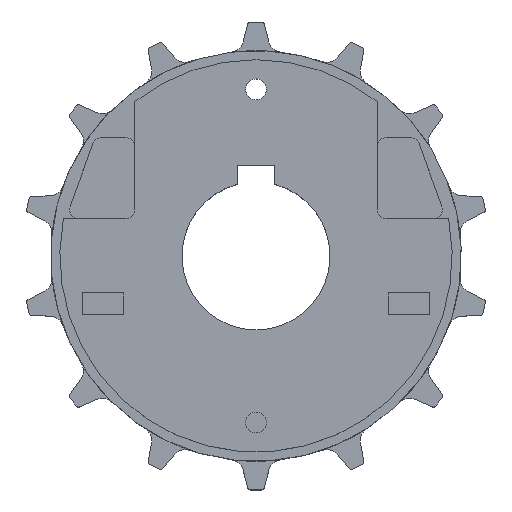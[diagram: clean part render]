
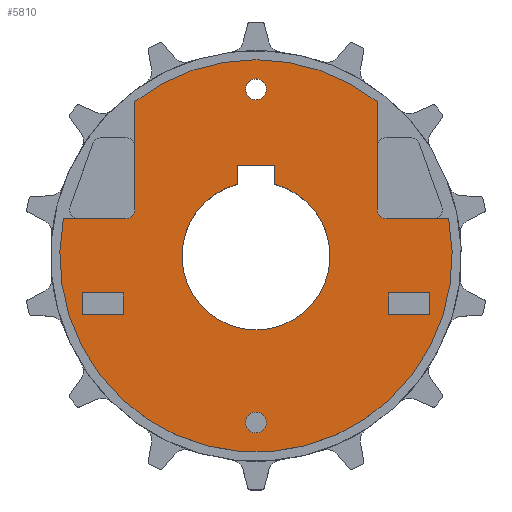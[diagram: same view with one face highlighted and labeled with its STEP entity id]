
A CAD part, top view. The second image highlights one B-rep face of the part: STEP entity #5810.
In plain terms, the highlighted planar face has unit normal (0, 0, 1).
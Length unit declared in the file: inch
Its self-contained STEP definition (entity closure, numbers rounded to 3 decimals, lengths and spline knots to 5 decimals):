
#1873=DIRECTION('',(-1.,0.,0.));
#1874=VECTOR('',#1873,0.8424);
#1875=CARTESIAN_POINT('',(-1.76,0.5,0.74));
#1876=LINE('',#1875,#1874);
#1877=CARTESIAN_POINT('',(-1.76,0.625,0.74));
#1878=DIRECTION('',(0.,0.,-1.));
#1879=DIRECTION('',(1.,0.,0.));
#1880=AXIS2_PLACEMENT_3D('',#1877,#1878,#1879);
#1882=DIRECTION('',(0.,-1.,0.));
#1883=VECTOR('',#1882,1.46049);
#1884=CARTESIAN_POINT('',(-1.635,2.08549,0.74));
#1885=LINE('',#1884,#1883);
#1886=CARTESIAN_POINT('',(0.,0.,0.74));
#1887=DIRECTION('',(0.,0.,1.));
#1888=DIRECTION('',(0.617,0.787,0.));
#1889=AXIS2_PLACEMENT_3D('',#1886,#1887,#1888);
#1891=DIRECTION('',(0.,1.,0.));
#1892=VECTOR('',#1891,1.46049);
#1893=CARTESIAN_POINT('',(1.635,0.625,0.74));
#1894=LINE('',#1893,#1892);
#1895=CARTESIAN_POINT('',(1.76,0.625,0.74));
#1896=DIRECTION('',(0.,0.,-1.));
#1897=DIRECTION('',(0.,-1.,0.));
#1898=AXIS2_PLACEMENT_3D('',#1895,#1896,#1897);
#1900=DIRECTION('',(-1.,0.,0.));
#1901=VECTOR('',#1900,0.8424);
#1902=CARTESIAN_POINT('',(2.6024,0.5,0.74));
#1903=LINE('',#1902,#1901);
#1904=CARTESIAN_POINT('',(0.,0.,0.74));
#1905=DIRECTION('',(0.,0.,1.));
#1906=DIRECTION('',(-0.982,0.189,0.));
#1907=AXIS2_PLACEMENT_3D('',#1904,#1905,#1906);
#1909=DIRECTION('',(1.,0.,0.));
#1910=VECTOR('',#1909,0.554);
#1911=CARTESIAN_POINT('',(1.792,-0.794,0.74));
#1912=LINE('',#1911,#1910);
#1913=DIRECTION('',(0.,1.,0.));
#1914=VECTOR('',#1913,0.294);
#1915=CARTESIAN_POINT('',(2.346,-0.794,0.74));
#1916=LINE('',#1915,#1914);
#1917=DIRECTION('',(-1.,0.,0.));
#1918=VECTOR('',#1917,0.554);
#1919=CARTESIAN_POINT('',(2.346,-0.5,0.74));
#1920=LINE('',#1919,#1918);
#1921=DIRECTION('',(0.,-1.,0.));
#1922=VECTOR('',#1921,0.294);
#1923=CARTESIAN_POINT('',(1.792,-0.5,0.74));
#1924=LINE('',#1923,#1922);
#1925=DIRECTION('',(1.,0.,0.));
#1926=VECTOR('',#1925,0.554);
#1927=CARTESIAN_POINT('',(-2.346,-0.794,0.74));
#1928=LINE('',#1927,#1926);
#1929=DIRECTION('',(0.,1.,0.));
#1930=VECTOR('',#1929,0.294);
#1931=CARTESIAN_POINT('',(-1.792,-0.794,0.74));
#1932=LINE('',#1931,#1930);
#1933=DIRECTION('',(-1.,0.,0.));
#1934=VECTOR('',#1933,0.554);
#1935=CARTESIAN_POINT('',(-1.792,-0.5,0.74));
#1936=LINE('',#1935,#1934);
#1937=DIRECTION('',(0.,-1.,0.));
#1938=VECTOR('',#1937,0.294);
#1939=CARTESIAN_POINT('',(-2.346,-0.5,0.74));
#1940=LINE('',#1939,#1938);
#1941=CARTESIAN_POINT('',(0.,2.25,0.74));
#1942=DIRECTION('',(0.,0.,1.));
#1943=DIRECTION('',(1.,0.,0.));
#1944=AXIS2_PLACEMENT_3D('',#1941,#1942,#1943);
#1946=CARTESIAN_POINT('',(0.,2.25,0.74));
#1947=DIRECTION('',(0.,0.,1.));
#1948=DIRECTION('',(-1.,0.,0.));
#1949=AXIS2_PLACEMENT_3D('',#1946,#1947,#1948);
#1951=CARTESIAN_POINT('',(0.,-2.25,0.74));
#1952=DIRECTION('',(0.,0.,1.));
#1953=DIRECTION('',(1.,0.,0.));
#1954=AXIS2_PLACEMENT_3D('',#1951,#1952,#1953);
#1956=CARTESIAN_POINT('',(0.,-2.25,0.74));
#1957=DIRECTION('',(0.,0.,1.));
#1958=DIRECTION('',(-1.,0.,0.));
#1959=AXIS2_PLACEMENT_3D('',#1956,#1957,#1958);
#1961=DIRECTION('',(0.,-1.,0.));
#1962=VECTOR('',#1961,0.25);
#1963=CARTESIAN_POINT('',(-0.25,1.21825,0.74));
#1964=LINE('',#1963,#1962);
#1965=CARTESIAN_POINT('',(0.,0.,0.74));
#1966=DIRECTION('',(0.,0.,1.));
#1967=DIRECTION('',(-0.25,0.968,0.));
#1968=AXIS2_PLACEMENT_3D('',#1965,#1966,#1967);
#1970=DIRECTION('',(0.,1.,0.));
#1971=VECTOR('',#1970,0.25);
#1972=CARTESIAN_POINT('',(0.25,0.96825,0.74));
#1973=LINE('',#1972,#1971);
#1974=DIRECTION('',(-1.,0.,0.));
#1975=VECTOR('',#1974,0.5);
#1976=CARTESIAN_POINT('',(0.25,1.21825,0.74));
#1977=LINE('',#1976,#1975);
#2907=CARTESIAN_POINT('',(-2.6024,0.5,0.74));
#2908=CARTESIAN_POINT('',(2.6024,0.5,0.74));
#2909=VERTEX_POINT('',#2907);
#2910=VERTEX_POINT('',#2908);
#2911=CARTESIAN_POINT('',(1.635,2.08549,0.74));
#2912=CARTESIAN_POINT('',(-1.635,2.08549,0.74));
#2913=VERTEX_POINT('',#2911);
#2914=VERTEX_POINT('',#2912);
#2939=CARTESIAN_POINT('',(-1.635,0.625,0.74));
#2940=VERTEX_POINT('',#2939);
#2941=CARTESIAN_POINT('',(-1.76,0.5,0.74));
#2942=VERTEX_POINT('',#2941);
#2943=CARTESIAN_POINT('',(1.76,0.5,0.74));
#2944=VERTEX_POINT('',#2943);
#2945=CARTESIAN_POINT('',(1.635,0.625,0.74));
#2946=VERTEX_POINT('',#2945);
#2983=CARTESIAN_POINT('',(0.1405,-2.25,0.74));
#2984=CARTESIAN_POINT('',(-0.1405,-2.25,0.74));
#2985=VERTEX_POINT('',#2983);
#2986=VERTEX_POINT('',#2984);
#2995=CARTESIAN_POINT('',(1.792,-0.794,0.74));
#2996=CARTESIAN_POINT('',(2.346,-0.794,0.74));
#2997=VERTEX_POINT('',#2995);
#2998=VERTEX_POINT('',#2996);
#2999=CARTESIAN_POINT('',(2.346,-0.5,0.74));
#3000=VERTEX_POINT('',#2999);
#3001=CARTESIAN_POINT('',(1.792,-0.5,0.74));
#3002=VERTEX_POINT('',#3001);
#3011=CARTESIAN_POINT('',(-2.346,-0.794,0.74));
#3012=CARTESIAN_POINT('',(-1.792,-0.794,0.74));
#3013=VERTEX_POINT('',#3011);
#3014=VERTEX_POINT('',#3012);
#3015=CARTESIAN_POINT('',(-1.792,-0.5,0.74));
#3016=VERTEX_POINT('',#3015);
#3017=CARTESIAN_POINT('',(-2.346,-0.5,0.74));
#3018=VERTEX_POINT('',#3017);
#3023=CARTESIAN_POINT('',(0.1405,2.25,0.74));
#3024=CARTESIAN_POINT('',(-0.1405,2.25,0.74));
#3025=VERTEX_POINT('',#3023);
#3026=VERTEX_POINT('',#3024);
#3179=CARTESIAN_POINT('',(-0.25,1.21825,0.74));
#3180=CARTESIAN_POINT('',(-0.25,0.96825,0.74));
#3181=VERTEX_POINT('',#3179);
#3182=VERTEX_POINT('',#3180);
#3183=CARTESIAN_POINT('',(0.25,0.96825,0.74));
#3184=VERTEX_POINT('',#3183);
#3185=CARTESIAN_POINT('',(0.25,1.21825,0.74));
#3186=VERTEX_POINT('',#3185);
#5751=CARTESIAN_POINT('',(0.,0.,0.74));
#5752=DIRECTION('',(0.,0.,1.));
#5753=DIRECTION('',(1.,0.,0.));
#5754=AXIS2_PLACEMENT_3D('',#5751,#5752,#5753);
#5755=PLANE('',#5754);
#5756=ORIENTED_EDGE('',*,*,#5663,.F.);
#5757=ORIENTED_EDGE('',*,*,#5633,.F.);
#5758=ORIENTED_EDGE('',*,*,#5600,.F.);
#5760=ORIENTED_EDGE('',*,*,#5759,.F.);
#5761=ORIENTED_EDGE('',*,*,#5454,.F.);
#5762=ORIENTED_EDGE('',*,*,#5423,.F.);
#5763=ORIENTED_EDGE('',*,*,#5377,.F.);
#5765=ORIENTED_EDGE('',*,*,#5764,.F.);
#5766=EDGE_LOOP('',(#5756,#5757,#5758,#5760,#5761,#5762,#5763,#5765));
#5767=FACE_OUTER_BOUND('',#5766,.F.);
#5769=ORIENTED_EDGE('',*,*,#5768,.T.);
#5771=ORIENTED_EDGE('',*,*,#5770,.T.);
#5773=ORIENTED_EDGE('',*,*,#5772,.T.);
#5775=ORIENTED_EDGE('',*,*,#5774,.T.);
#5776=EDGE_LOOP('',(#5769,#5771,#5773,#5775));
#5777=FACE_BOUND('',#5776,.F.);
#5779=ORIENTED_EDGE('',*,*,#5778,.T.);
#5781=ORIENTED_EDGE('',*,*,#5780,.T.);
#5783=ORIENTED_EDGE('',*,*,#5782,.T.);
#5785=ORIENTED_EDGE('',*,*,#5784,.T.);
#5786=EDGE_LOOP('',(#5779,#5781,#5783,#5785));
#5787=FACE_BOUND('',#5786,.F.);
#5789=ORIENTED_EDGE('',*,*,#5788,.T.);
#5791=ORIENTED_EDGE('',*,*,#5790,.T.);
#5792=EDGE_LOOP('',(#5789,#5791));
#5793=FACE_BOUND('',#5792,.F.);
#5795=ORIENTED_EDGE('',*,*,#5794,.T.);
#5797=ORIENTED_EDGE('',*,*,#5796,.T.);
#5798=EDGE_LOOP('',(#5795,#5797));
#5799=FACE_BOUND('',#5798,.F.);
#5801=ORIENTED_EDGE('',*,*,#5800,.T.);
#5803=ORIENTED_EDGE('',*,*,#5802,.T.);
#5805=ORIENTED_EDGE('',*,*,#5804,.T.);
#5807=ORIENTED_EDGE('',*,*,#5806,.T.);
#5808=EDGE_LOOP('',(#5801,#5803,#5805,#5807));
#5809=FACE_BOUND('',#5808,.F.);
#5810=ADVANCED_FACE('',(#5767,#5777,#5787,#5793,#5799,#5809),#5755,.T.);
#1881=CIRCLE('',#1880,0.125);
#1890=CIRCLE('',#1889,2.65);
#1899=CIRCLE('',#1898,0.125);
#1908=CIRCLE('',#1907,2.65);
#1945=CIRCLE('',#1944,0.1405);
#1950=CIRCLE('',#1949,0.1405);
#1955=CIRCLE('',#1954,0.1405);
#1960=CIRCLE('',#1959,0.1405);
#1969=CIRCLE('',#1968,1.);
#5377=EDGE_CURVE('',#2910,#2944,#1903,.T.);
#5423=EDGE_CURVE('',#2944,#2946,#1899,.T.);
#5454=EDGE_CURVE('',#2946,#2913,#1894,.T.);
#5600=EDGE_CURVE('',#2914,#2940,#1885,.T.);
#5633=EDGE_CURVE('',#2940,#2942,#1881,.T.);
#5663=EDGE_CURVE('',#2942,#2909,#1876,.T.);
#5759=EDGE_CURVE('',#2913,#2914,#1890,.T.);
#5764=EDGE_CURVE('',#2909,#2910,#1908,.T.);
#5768=EDGE_CURVE('',#2997,#2998,#1912,.T.);
#5770=EDGE_CURVE('',#2998,#3000,#1916,.T.);
#5772=EDGE_CURVE('',#3000,#3002,#1920,.T.);
#5774=EDGE_CURVE('',#3002,#2997,#1924,.T.);
#5778=EDGE_CURVE('',#3013,#3014,#1928,.T.);
#5780=EDGE_CURVE('',#3014,#3016,#1932,.T.);
#5782=EDGE_CURVE('',#3016,#3018,#1936,.T.);
#5784=EDGE_CURVE('',#3018,#3013,#1940,.T.);
#5788=EDGE_CURVE('',#3025,#3026,#1945,.T.);
#5790=EDGE_CURVE('',#3026,#3025,#1950,.T.);
#5794=EDGE_CURVE('',#2985,#2986,#1955,.T.);
#5796=EDGE_CURVE('',#2986,#2985,#1960,.T.);
#5800=EDGE_CURVE('',#3181,#3182,#1964,.T.);
#5802=EDGE_CURVE('',#3182,#3184,#1969,.T.);
#5804=EDGE_CURVE('',#3184,#3186,#1973,.T.);
#5806=EDGE_CURVE('',#3186,#3181,#1977,.T.);
